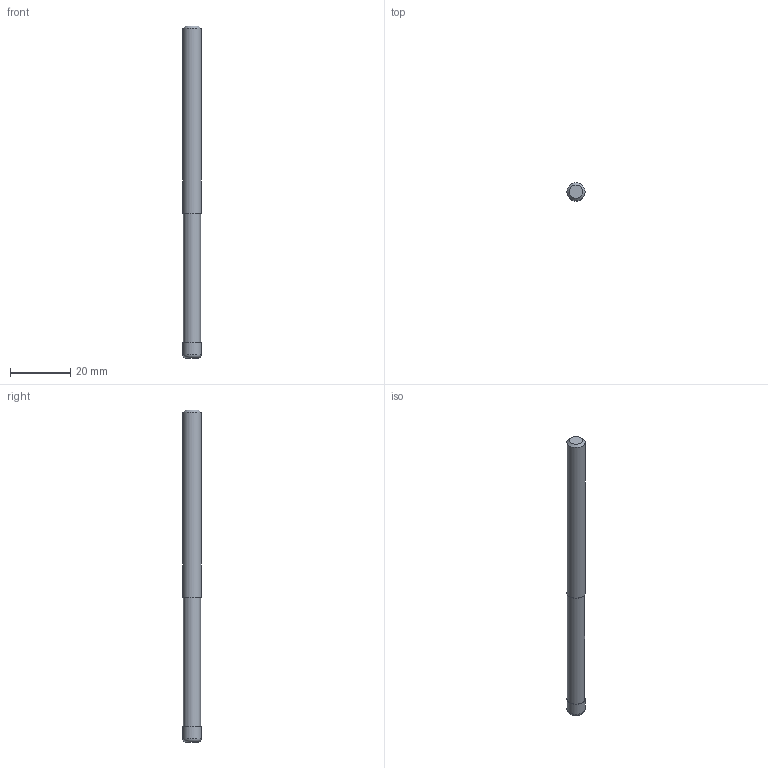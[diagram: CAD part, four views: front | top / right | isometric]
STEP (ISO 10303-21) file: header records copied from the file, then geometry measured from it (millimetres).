
FILE_DESCRIPTION((''),'2;1');
FILE_NAME('C:\Users\nsx150\AppData\Local\Temp\Mastercam 2021\3SYKECWX22\TEMP.step','2021-04-22T09:52:50',(''),(''),'STEP Write','Mastercam 2021 ... CNC Software, Inc.','');
FILE_SCHEMA(('AUTOMOTIVE_DESIGN'));
Length unit declared in the file: millimetre
Products named in the file (1): None
Bounding box: 6 x 6 x 110 mm (x, y, z)
Volume: 2982.4 mm3; surface area: 2127.8 mm2
Topology: 2 solids, 2 shells, 10 faces, 13 edges, 8 vertices
Faces by surface type: plane 5, cylinder 3, torus 1, cone 1
Full cylindrical faces by diameter (mm): 5.7 x1, 6 x2
Entity records: 232 total; most frequent: DIRECTION 40, CARTESIAN_POINT 28, AXIS2_PLACEMENT_3D 20, ORIENTED_EDGE 16, EDGE_LOOP 16, STYLED_ITEM 13, ADVANCED_FACE 10, FACE_BOUND 10
